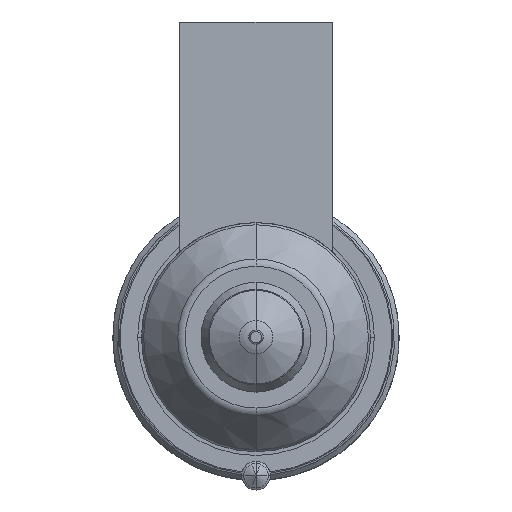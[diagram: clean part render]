
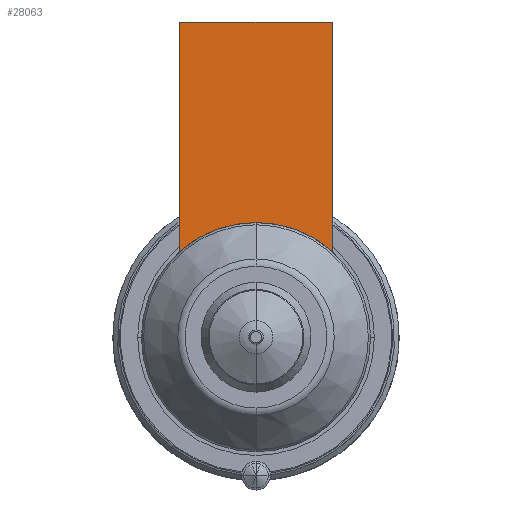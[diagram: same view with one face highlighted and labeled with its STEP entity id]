
A CAD part, front view. The second image highlights one B-rep face of the part: STEP entity #28063.
In plain terms, the highlighted planar face has unit normal (0, -1, 0).
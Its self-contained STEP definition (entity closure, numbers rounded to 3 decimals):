
#27149=DIRECTION('',(0.,0.,-1.));
#27150=VECTOR('',#27149,24.056);
#27151=CARTESIAN_POINT('',(-8.,-56.,33.));
#27152=LINE('',#27151,#27150);
#27189=DIRECTION('',(1.,0.,0.));
#27190=VECTOR('',#27189,16.);
#27191=CARTESIAN_POINT('',(-8.,-56.,33.));
#27192=LINE('',#27191,#27190);
#27196=CARTESIAN_POINT('',(0.,-56.,0.));
#27197=DIRECTION('',(0.,-1.,0.));
#27198=DIRECTION('',(0.667,0.,0.745));
#27199=AXIS2_PLACEMENT_3D('',#27196,#27197,#27198);
#27204=CARTESIAN_POINT('',(0.,-56.,0.));
#27205=DIRECTION('',(0.,-1.,0.));
#27206=DIRECTION('',(0.,0.,1.));
#27207=AXIS2_PLACEMENT_3D('',#27204,#27205,#27206);
#27240=DIRECTION('',(0.,0.,-1.));
#27241=VECTOR('',#27240,24.056);
#27242=CARTESIAN_POINT('',(8.,-56.,33.));
#27243=LINE('',#27242,#27241);
#27899=CARTESIAN_POINT('',(-8.,-56.,33.));
#27900=VERTEX_POINT('',#27899);
#27905=CARTESIAN_POINT('',(8.,-56.,33.));
#27906=VERTEX_POINT('',#27905);
#27909=CARTESIAN_POINT('',(-8.,-56.,8.944));
#27910=VERTEX_POINT('',#27909);
#27913=CARTESIAN_POINT('',(8.,-56.,8.944));
#27914=VERTEX_POINT('',#27913);
#27982=CARTESIAN_POINT('',(0.,-56.,12.));
#27983=VERTEX_POINT('',#27982);
#28048=CARTESIAN_POINT('',(-8.,-56.,33.));
#28049=DIRECTION('',(0.,-1.,0.));
#28050=DIRECTION('',(0.,0.,-1.));
#28051=AXIS2_PLACEMENT_3D('',#28048,#28049,#28050);
#28052=PLANE('',#28051);
#28053=ORIENTED_EDGE('',*,*,#27996,.F.);
#28055=ORIENTED_EDGE('',*,*,#28054,.T.);
#28057=ORIENTED_EDGE('',*,*,#28056,.T.);
#28059=ORIENTED_EDGE('',*,*,#28058,.T.);
#28060=ORIENTED_EDGE('',*,*,#28028,.T.);
#28061=EDGE_LOOP('',(#28053,#28055,#28057,#28059,#28060));
#28062=FACE_OUTER_BOUND('',#28061,.F.);
#28063=ADVANCED_FACE('',(#28062),#28052,.T.);
#27200=CIRCLE('',#27199,12.);
#27208=CIRCLE('',#27207,12.);
#27996=EDGE_CURVE('',#27900,#27910,#27152,.T.);
#28028=EDGE_CURVE('',#27983,#27910,#27208,.T.);
#28054=EDGE_CURVE('',#27900,#27906,#27192,.T.);
#28056=EDGE_CURVE('',#27906,#27914,#27243,.T.);
#28058=EDGE_CURVE('',#27914,#27983,#27200,.T.);
